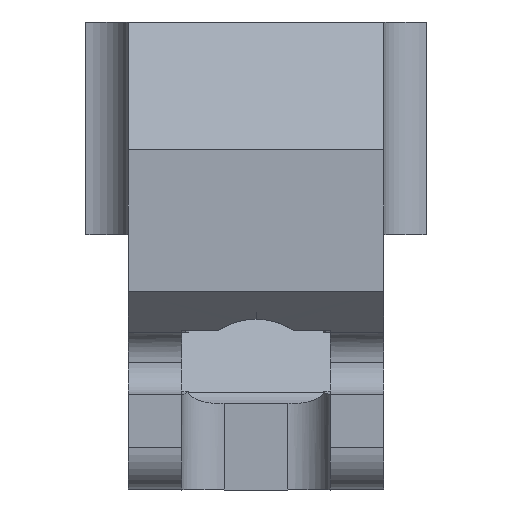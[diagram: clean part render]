
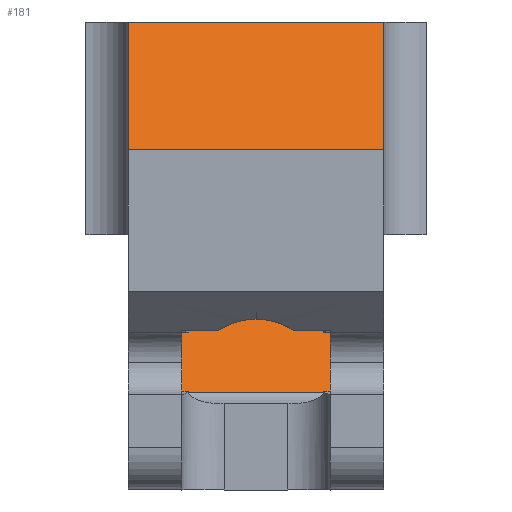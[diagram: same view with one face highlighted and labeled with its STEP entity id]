
A CAD part, front view. The second image highlights one B-rep face of the part: STEP entity #181.
In plain terms, the highlighted planar face has unit normal (0, -0.707, 0.707).
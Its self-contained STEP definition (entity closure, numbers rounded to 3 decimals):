
#181=ADVANCED_FACE('',(#249),#763,.T.);
#249=FACE_OUTER_BOUND('',#322,.F.);
#322=EDGE_LOOP('',(#587,#588,#589,#590));
#587=ORIENTED_EDGE('',*,*,#1591,.F.);
#588=ORIENTED_EDGE('',*,*,#1499,.T.);
#589=ORIENTED_EDGE('',*,*,#1530,.F.);
#590=ORIENTED_EDGE('',*,*,#1513,.T.);
#763=PLANE('',#1929);
#1235=LINE('',#2620,#1348);
#1242=LINE('',#2634,#1355);
#1256=LINE('',#2651,#1369);
#1299=LINE('',#2712,#1412);
#1348=VECTOR('',#2042,12.314);
#1355=VECTOR('',#2063,12.314);
#1369=VECTOR('',#2083,6.);
#1412=VECTOR('',#2162,6.);
#1499=EDGE_CURVE('',#1759,#1758,#1235,.T.);
#1513=EDGE_CURVE('',#1741,#1742,#1242,.T.);
#1530=EDGE_CURVE('',#1741,#1758,#1256,.T.);
#1591=EDGE_CURVE('',#1759,#1742,#1299,.T.);
#1741=VERTEX_POINT('',#2401);
#1742=VERTEX_POINT('',#2402);
#1758=VERTEX_POINT('',#2418);
#1759=VERTEX_POINT('',#2419);
#1929=AXIS2_PLACEMENT_3D('',#2778,#2273,#2274);
#2042=DIRECTION('',(0.,0.707,0.707));
#2063=DIRECTION('',(0.,-0.707,-0.707));
#2083=DIRECTION('',(-1.,0.,0.));
#2162=DIRECTION('',(1.,0.,0.));
#2273=DIRECTION('',(0.,-0.707,0.707));
#2274=DIRECTION('',(0.,-0.707,-0.707));
#2401=CARTESIAN_POINT('',(-2.,9.214,177.8));
#2402=CARTESIAN_POINT('',(-2.,0.507,169.093));
#2418=CARTESIAN_POINT('',(-8.,9.214,177.8));
#2419=CARTESIAN_POINT('',(-8.,0.507,169.093));
#2620=CARTESIAN_POINT('',(-8.,0.507,169.093));
#2634=CARTESIAN_POINT('',(-2.,9.214,177.8));
#2651=CARTESIAN_POINT('',(-2.,9.214,177.8));
#2712=CARTESIAN_POINT('',(-8.,0.507,169.093));
#2778=CARTESIAN_POINT('',(-0.877,9.301,177.887));
